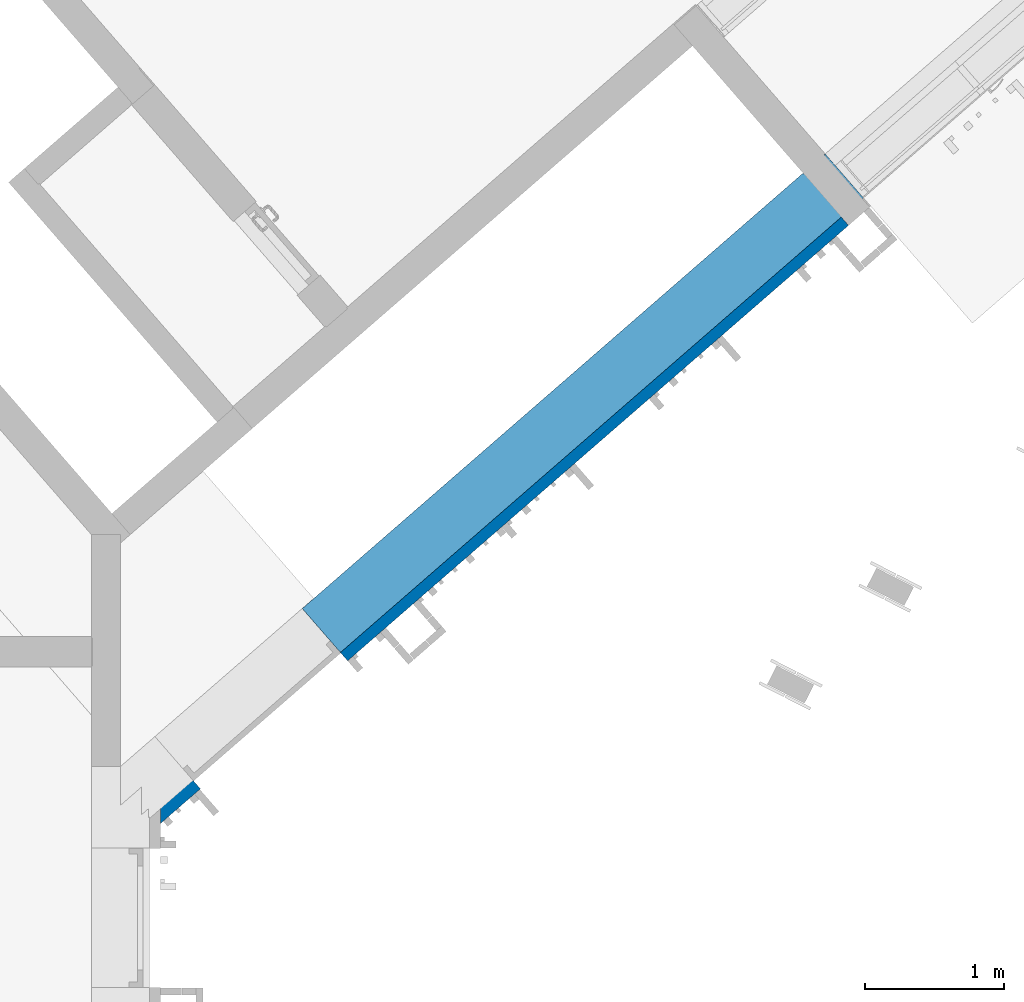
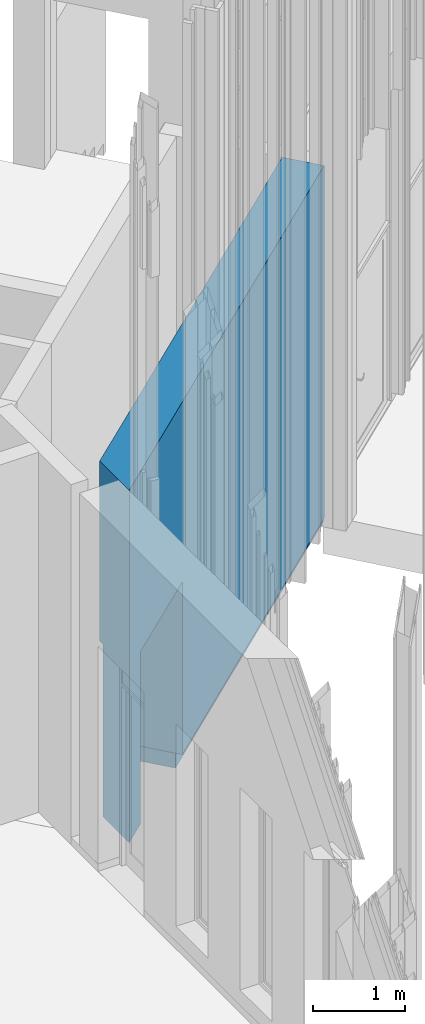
# One storey, part 200 of 390: 2 walls.
"""IFC2X3 building model written with IfcOpenShell, lengths in millimetres."""

from ifc_helpers import new_model, entity, si_unit, converted_unit, derived_unit, money_unit, direction, frame, origin_with_axes, place, context, subcontext, project, spatial, faceted_brep, material, material_list, type_object, element, save


model = new_model("IFC2X3")

# Units and contexts
model_context = context("Model", 3, precision=1e-05, world=origin_with_axes(), true_north=direction((0.0, 1.0)))
body_context = subcontext(model_context, "Body", "Model", "MODEL_VIEW")
ifc_project = project(units=[si_unit("LENGTHUNIT", "METRE", prefix="MILLI"), si_unit("AREAUNIT", "SQUARE_METRE"), si_unit("VOLUMEUNIT", "CUBIC_METRE"), converted_unit("PLANEANGLEUNIT", "DEGREE", entity("IfcPlaneAngleMeasure", 0.0174532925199), si_unit("PLANEANGLEUNIT", "RADIAN"), dimensions=[0, 0, 0, 0, 0, 0, 0]), si_unit("SOLIDANGLEUNIT", "STERADIAN"), money_unit("EUR"), converted_unit("TIMEUNIT", "Year", entity("IfcTimeMeasure", 31556926.0), si_unit("TIMEUNIT", "SECOND"), dimensions=[0, 0, 1, 0, 0, 0, 0]), si_unit("MASSUNIT", "GRAM", prefix="KILO"), si_unit("THERMODYNAMICTEMPERATUREUNIT", "DEGREE_CELSIUS"), si_unit("LUMINOUSINTENSITYUNIT", "LUMEN"), si_unit("ENERGYUNIT", "JOULE", prefix="MEGA"), derived_unit("THERMALCONDUCTANCEUNIT", [(si_unit("POWERUNIT", "WATT"), 1), (si_unit("LENGTHUNIT", "METRE"), -1), (si_unit("THERMODYNAMICTEMPERATUREUNIT", "KELVIN"), -1)]), derived_unit("SPECIFICHEATCAPACITYUNIT", [(si_unit("ENERGYUNIT", "JOULE"), 1), (si_unit("MASSUNIT", "GRAM", prefix="KILO"), -1), (si_unit("THERMODYNAMICTEMPERATUREUNIT", "KELVIN"), -1)]), derived_unit("MASSDENSITYUNIT", [(si_unit("MASSUNIT", "GRAM", prefix="KILO"), 1), (si_unit("VOLUMEUNIT", "CUBIC_METRE"), -1)])], contexts=[model_context])

# Site, building, storey
site_placement = place(None, origin_with_axes())
site = spatial("IfcSite", under=ifc_project, at=site_placement, Name="Site", CompositionType="ELEMENT")
building_placement = place(site_placement, origin_with_axes())
building = spatial("IfcBuilding", under=site, at=building_placement, Name="Building", CompositionType="ELEMENT")
storey_placement = place(building_placement, origin_with_axes())
storey = spatial("IfcBuildingStorey", under=building, at=storey_placement, Name="1 korrus", CompositionType="ELEMENT", Elevation=0.0)

# Walls
ifc_material_1 = material(Name="Puit - Konstruktsioon")
ifc_material_2 = material(Name="Õhkvahe")
ifc_material_3 = material(Name="Soojustus - Plastik Kõva")
ifc_material_4 = material(Name="Raudbetoon - Toode")
ifc_material_list_1 = material_list([ifc_material_1, ifc_material_1, ifc_material_2, ifc_material_3, ifc_material_3, ifc_material_4])
wall_type_1 = type_object("IfcWallType", Name="VS-01*", PredefinedType="NOTDEFINED")
wall_1_placement = place(storey_placement, frame((144403.675817, 70837.2235846, 100.0), z_axis=(0.0, 0.0, 1.0), x_axis=(-0.754709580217, -0.656059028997, 0.0)))
element("IfcWall", 1, at=wall_1_placement, inside=storey, type_object=wall_type_1, material=ifc_material_list_1, Name="VS-01*", context=body_context, shape_type="Brep", body=[
    faceted_brep([(6162.00009743, 487.0, 0.0), (6162.00009743, 487.0, 2300.0), (4762.00009743, 487.0, 2300.0), (4762.00009743, 487.0, 0.0), (0.0, 487.0, 0.0), (0.0, 487.0, 4700.0), (6540.49808942, 487.0, 4700.0), (6540.49808942, 487.0, 0.0), (6162.00009743, 465.0, 0.0), (6162.00009743, 465.0, 2300.0), (4762.00009743, 465.0, 2300.0), (4762.00009743, 465.0, 0.0), (0.0, 465.0, 0.0), (0.0, 465.0, 4700.0), (6521.37378119, 465.0, 4700.0), (6521.37378119, 465.0, 0.0)], [[[0, 1, 2, 3, 4, 5, 6, 7]], [[1, 0, 8, 9]], [[2, 1, 9, 10]], [[3, 2, 10, 11]], [[3, 11, 12, 4]], [[12, 13, 5, 4]], [[5, 13, 14, 6]], [[6, 14, 15, 7]], [[8, 0, 7, 15]], [[9, 8, 15, 14, 13, 12, 11, 10]]]),
    faceted_brep([(6162.00009743, 465.0, 0.0), (6162.00009743, 465.0, 2300.0), (4762.00009743, 465.0, 2300.0), (4762.00009743, 465.0, 0.0), (0.0, 465.0, 0.0), (0.0, 465.0, 4700.0), (6521.37378119, 465.0, 4700.0), (6521.37378119, 465.0, 0.0), (6162.00009743, 445.0, 0.0), (6162.00009743, 445.0, 2300.0), (4762.00009743, 445.0, 2300.0), (4762.00009743, 445.0, 0.0), (0.0, 445.0, 0.0), (0.0, 445.0, 4700.0), (6503.98804644, 445.0, 4700.0), (6503.98804644, 445.0, 0.0)], [[[0, 1, 2, 3, 4, 5, 6, 7]], [[1, 0, 8, 9]], [[2, 1, 9, 10]], [[3, 2, 10, 11]], [[3, 11, 12, 4]], [[12, 13, 5, 4]], [[5, 13, 14, 6]], [[6, 14, 15, 7]], [[8, 0, 7, 15]], [[9, 8, 15, 14, 13, 12, 11, 10]]]),
    faceted_brep([(6162.00009743, 412.0, 2300.0), (4762.00009743, 412.0, 2300.0), (4762.00009743, 445.0, 2300.0), (6162.00009743, 445.0, 2300.0), (6162.00009743, 400.0, 2300.0), (4762.00009743, 400.0, 2300.0), (4762.00009743, 412.0, 0.0), (4762.00009743, 445.0, 0.0), (0.0, 445.0, 4700.0), (6503.98804644, 445.0, 4700.0), (6503.98804644, 445.0, 0.0), (6162.00009743, 445.0, 0.0), (0.0, 445.0, 0.0), (6162.00009743, 412.0, 0.0), (6162.00009743, 400.0, 0.0), (6464.87014324, 400.0, 0.0), (6464.87014324, 400.0, 4700.0), (0.0, 400.0, 4700.0), (0.0, 400.0, 0.0), (4762.00009743, 400.0, 0.0)], [[[0, 1, 2, 3]], [[1, 0, 4, 5]], [[1, 6, 7, 2]], [[8, 9, 10, 11, 3, 2, 7, 12]], [[13, 0, 3, 11]], [[0, 13, 14, 4]], [[4, 14, 15, 16, 17, 18, 19, 5]], [[6, 1, 5, 19]], [[6, 19, 18, 12, 7]], [[17, 16, 9, 8]], [[16, 15, 10, 9]], [[14, 13, 11, 10, 15]], [[17, 8, 12, 18]]]),
    faceted_brep([(6162.00009743, 400.0, 0.0), (6162.00009743, 400.0, 2300.0), (4762.00009743, 400.0, 2300.0), (4762.00009743, 400.0, 0.0), (0.0, 400.0, 0.0), (0.0, 400.0, 4700.0), (6464.87014324, 400.0, 4700.0), (6464.87014324, 400.0, 0.0), (6162.00009743, 350.0, 0.0), (6162.00009743, 350.0, 2300.0), (4762.00009743, 350.0, 2300.0), (4762.00009743, 350.0, 0.0), (0.0, 350.0, 0.0), (0.0, 350.0, 4700.0), (6421.40580636, 350.0, 4700.0), (6421.40580636, 350.0, 0.0)], [[[0, 1, 2, 3, 4, 5, 6, 7]], [[1, 0, 8, 9]], [[2, 1, 9, 10]], [[3, 2, 10, 11]], [[3, 11, 12, 4]], [[12, 13, 5, 4]], [[5, 13, 14, 6]], [[6, 14, 15, 7]], [[8, 0, 7, 15]], [[9, 8, 15, 14, 13, 12, 11, 10]]]),
    faceted_brep([(6162.00009743, 350.0, 0.0), (6162.00009743, 350.0, 2300.0), (4762.00009743, 350.0, 2300.0), (4762.00009743, 350.0, 0.0), (0.0, 350.0, 0.0), (0.0, 350.0, 4700.0), (6421.40580636, 350.0, 4700.0), (6421.40580636, 350.0, 0.0), (6162.00009743, 200.0, 0.0), (6162.00009743, 200.0, 2300.0), (4762.00009743, 200.0, 2300.0), (4762.00009743, 200.0, 0.0), (0.0, 200.0, 0.0), (0.0, 200.0, 4700.0), (6291.01279571, 200.0, 4700.0), (6291.01279571, 200.0, 0.0)], [[[0, 1, 2, 3, 4, 5, 6, 7]], [[1, 0, 8, 9]], [[2, 1, 9, 10]], [[3, 2, 10, 11]], [[3, 11, 12, 4]], [[12, 13, 5, 4]], [[5, 13, 14, 6]], [[6, 14, 15, 7]], [[8, 0, 7, 15]], [[9, 8, 15, 14, 13, 12, 11, 10]]]),
    faceted_brep([(6162.00009743, 200.0, 0.0), (6162.00009743, 200.0, 2300.0), (4762.00009743, 200.0, 2300.0), (4762.00009743, 200.0, 0.0), (0.0, 200.0, 0.0), (0.0, 200.0, 4700.0), (6291.01279571, 200.0, 4700.0), (6291.01279571, 200.0, 0.0), (6162.00009743, 51.5878677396, 0.0), (6162.00009743, 51.5878677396, 2300.0), (6117.15544818, 0.0, 2300.0), (4762.00009743, 0.0, 2300.0), (4762.00009743, 0.0, 0.0), (0.0, 0.0, 0.0), (0.0, 0.0, 4700.0), (6117.15544818, 0.0, 4700.0)], [[[0, 1, 2, 3, 4, 5, 6, 7]], [[1, 0, 8, 9]], [[2, 1, 9, 10, 11]], [[3, 2, 11, 12]], [[3, 12, 13, 4]], [[13, 14, 5, 4]], [[5, 14, 15, 6]], [[9, 8, 7, 6, 15, 10]], [[8, 0, 7]], [[11, 10, 15, 14, 13, 12]]]),
])
ifc_material_5 = material(Name="Plaat - Sein")
ifc_material_6 = material(Name="Raudbetoon - Konstruktsioon")
ifc_material_7 = material(Name="Krohv - Lubjakivi")
ifc_material_list_2 = material_list([ifc_material_5, ifc_material_3, ifc_material_3, ifc_material_6, ifc_material_7, ifc_material_7])
wall_type_2 = type_object("IfcWallType", Name="VS-05", PredefinedType="NOTDEFINED")
wall_2_placement = place(storey_placement, frame((144555.606991, 70982.5403142, -100.0), z_axis=(0.0, 0.0, 1.0), x_axis=(-0.754709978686, -0.656058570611, 0.0)))
element("IfcWall", 2, at=wall_2_placement, inside=storey, type_object=wall_type_2, material=ifc_material_list_2, Name="VS-05", context=body_context, shape_type="Brep", body=[
    faceted_brep([(0.0, 418.0, 0.0), (4972.00000856, 418.0, 0.0), (4972.00000856, 410.0, 0.0), (0.0, 410.0, 0.0), (0.0, 418.0, 200.000000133), (4972.00000856, 418.0, 200.000000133), (4972.00000856, 410.0, 200.000000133), (0.0, 410.0, 200.000000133)], [[[0, 1, 2, 3]], [[4, 5, 1, 0]], [[2, 1, 5, 6]], [[3, 2, 6, 7]], [[4, 0, 3, 7]], [[7, 6, 5, 4]]]),
    faceted_brep([(0.0, 410.0, 0.0), (4972.00000856, 410.0, 0.0), (4972.00000856, 360.0, 0.0), (0.0, 360.0, 0.0), (0.0, 410.0, 200.000000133), (4972.00000856, 410.0, 200.000000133), (4972.00000856, 360.0, 200.000000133), (0.0, 360.0, 200.000000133)], [[[0, 1, 2, 3]], [[4, 5, 1, 0]], [[2, 1, 5, 6]], [[3, 2, 6, 7]], [[4, 0, 3, 7]], [[7, 6, 5, 4]]]),
    faceted_brep([(0.0, 360.0, 0.0), (4972.00000856, 360.0, 0.0), (4972.00000856, 210.0, 0.0), (0.0, 210.0, 0.0), (0.0, 360.0, 200.000000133), (4972.00000856, 360.0, 200.000000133), (4972.00000856, 210.0, 200.000000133), (0.0, 210.0, 200.000000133)], [[[0, 1, 2, 3]], [[4, 5, 1, 0]], [[2, 1, 5, 6]], [[3, 2, 6, 7]], [[4, 0, 3, 7]], [[7, 6, 5, 4]]]),
    faceted_brep([(4972.00000856, 210.0, 0.0), (4972.00000856, 10.0, 0.0), (0.0, 10.0, 0.0), (0.0, 210.0, 0.0), (4972.00000856, 210.0, 200.000000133), (4972.00000856, 10.0, 200.000000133), (0.0, 10.0, 200.000000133), (0.0, 210.0, 200.000000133)], [[[0, 1, 2, 3]], [[0, 4, 5, 1]], [[1, 5, 6, 2]], [[3, 2, 6, 7]], [[4, 0, 3, 7]], [[5, 4, 7, 6]]]),
    faceted_brep([(4972.00000856, 10.0, 0.0), (4972.00000856, 0.0, 0.0), (210.000265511, 0.0, 0.0), (210.000259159, 9.99999999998, 0.0), (4972.00000856, 10.0, 200.000000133), (4972.00000856, 0.0, 200.000000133), (210.000265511, 0.0, 200.000000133), (210.000259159, 9.99999999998, 200.000000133)], [[[0, 1, 2, 3]], [[0, 4, 5, 1]], [[1, 5, 6, 2]], [[3, 2, 6, 7]], [[4, 0, 3, 7]], [[5, 4, 7, 6]]]),
    faceted_brep([(10.0002655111, 0.0, 0.0), (0.0, 0.0, 0.0), (0.0, 10.0, 0.0), (10.0002591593, 9.99999999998, 0.0), (10.0002655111, 0.0, 200.000000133), (0.0, 0.0, 200.000000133), (0.0, 10.0, 200.000000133), (10.0002591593, 9.99999999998, 200.000000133)], [[[0, 1, 2, 3]], [[4, 5, 1, 0]], [[2, 1, 5, 6]], [[3, 2, 6, 7]], [[3, 7, 4, 0]], [[7, 6, 5, 4]]]),
])

save(model, "model.ifc")
